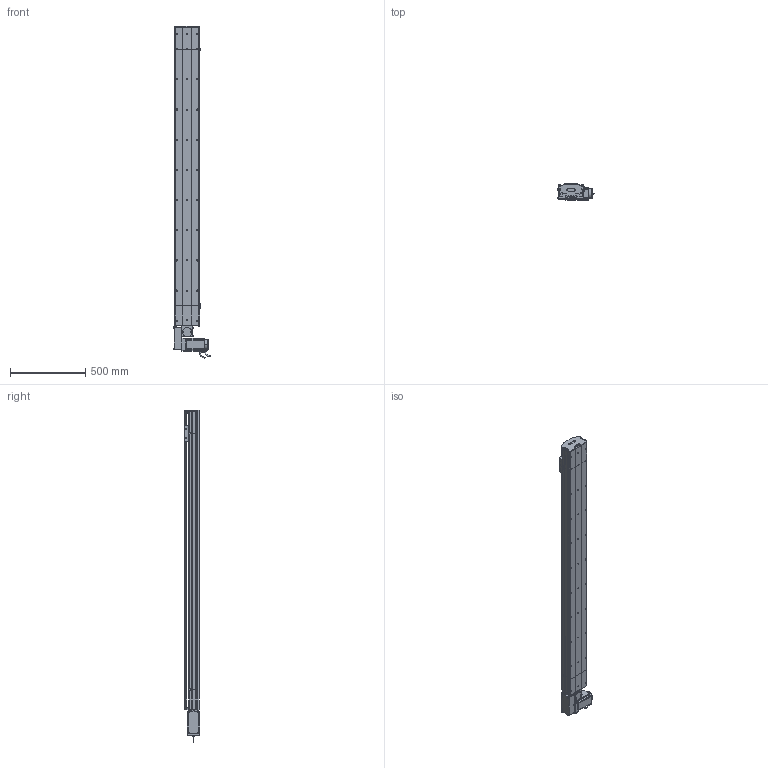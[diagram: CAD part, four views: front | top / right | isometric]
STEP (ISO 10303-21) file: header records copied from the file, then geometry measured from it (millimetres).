
FILE_DESCRIPTION (( 'STEP AP214' ), '1' );
FILE_NAME ('D17 TBN RH S1700.STEP', '2010-06-30T11:05:33', ( 'Christophe Gaillard' ), ( 'SGA' ), 'SwSTEP 2.0', 'SolidWorks 2010', '' );
FILE_SCHEMA (( 'AUTOMOTIVE_DESIGN' ));
Length unit declared in the file: millimetre
Products named in the file (40): Conecteur_Default; vis M5 L70_Default; Plaque racord D17_Default; vis M5 L16_Default; Vis M5 L16-2_Default; corp tail D17B+100_Default; Tail D17B+100_Default; Renvoi RH_Default; cache arbre D17_Default; plaque de  bout tail D17B_Default; tete d''axe poulie D17B; Rail D17B; couroie head D17_Default; D17 TBN RH S1700; couvercle D17B course L1700_Default; corp D17B 1700_Default; Head RH D17B_Default; course 1700 D17B_Default; Couroie+ rail D17 Course 1700 ; Moteur motionking 90BLDC125A-640; poulie head_Default; couvercle D17B head_Default; cache D17_Default; plaque de  bout head D17B RH_Default; avant 90BLDC125A-640; vis M5 L5_Default; corpl head D17 _Default; Arbre+rail head D17B; corps 90BLDC125A-640; codeur 90BLDC125-640; Conecteur2_Default; Couroie tail D17B_Default; couvercle D17B_Default; vis M5 L12_Default; poulie tail_Default; vis M5 L8 90°_Default; Chariot D17 TBN; vis M5 L25_Default; chariot D17 TBN; guide D17
Assembly tree (66 placements, depth 4):
  D17 TBN RH S1700
    Head RH D17B_Default
      vis M5 L25_Default  x2
      vis M5 L12_Default  x8
      Renvoi RH_Default
      vis M5 L5_Default  x4
      poulie head_Default
      cache D17_Default  x2
      vis M5 L16_Default  x2
      couvercle D17B head_Default
      vis M5 L70_Default  x4
      couroie head D17_Default
      Vis M5 L16-2_Default  x4
      plaque de  bout head D17B RH_Default
      cache arbre D17_Default
      corpl head D17 _Default
      Plaque racord D17_Default
      Moteur motionking 90BLDC125A-640
        corps 90BLDC125A-640
        Conecteur_Default
        Conecteur2_Default
        codeur 90BLDC125-640
        avant 90BLDC125A-640
      Arbre+rail head D17B
    course 1700 D17B_Default
      couvercle D17B course L1700_Default
      corp D17B 1700_Default
      Couroie+ rail D17 Course 1700 
    Tail D17B+100_Default
      plaque de  bout tail D17B_Default
      vis M5 L12_Default  x4
      poulie tail_Default
      Rail D17B
      vis M5 L25_Default  x2
      couvercle D17B_Default
      vis M5 L8 90°_Default  x2
      tete d''axe poulie D17B
      Couroie tail D17B_Default
      corp tail D17B+100_Default
    chariot D17 TBN
      guide D17  x2
      Chariot D17 TBN
Bounding box: 245.2 x 105.65 x 2200.95 mm (x, y, z)
Volume: 12591991.2 mm3; surface area: 3607537.4 mm2
Topology: 89 solids, 89 shells, 2583 faces, 6579 edges, 4242 vertices
Faces by surface type: plane 1537, cylinder 749, bspline 136, cone 80, torus 77, sphere 4
Entity records: 83589 total; most frequent: CARTESIAN_POINT 24937, ORIENTED_EDGE 10330, DIRECTION 9758, EDGE_CURVE 5165, LINE 3444, VECTOR 3444, VERTEX_POINT 3386, AXIS2_PLACEMENT_3D 3157
